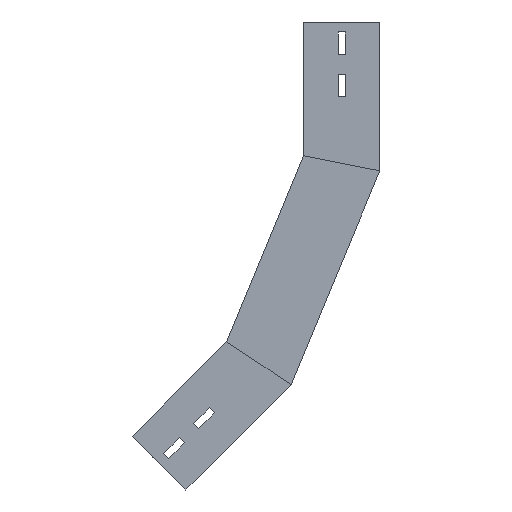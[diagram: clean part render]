
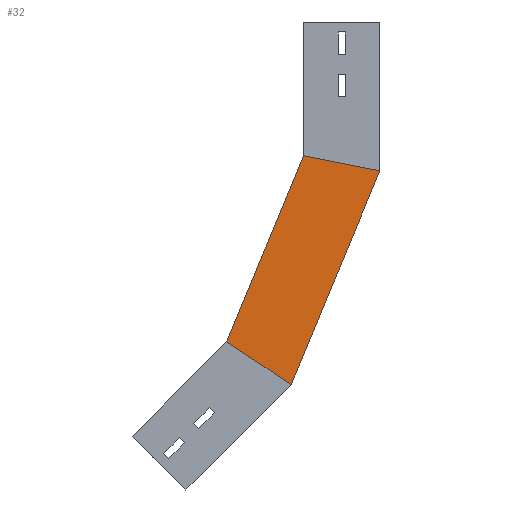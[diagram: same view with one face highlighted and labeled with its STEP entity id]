
A CAD part, left-side view. The second image highlights one B-rep face of the part: STEP entity #32.
In plain terms, the highlighted planar face has unit normal (-1, 0, 0) as drawn and (1, 0, 0) by its records, which use the part's own axes.
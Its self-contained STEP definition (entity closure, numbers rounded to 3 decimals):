
#32 = ADVANCED_FACE ( 'NONE', ( #596 ), #1064, .F. ) ;
#110 = VECTOR ( 'NONE', #1266, 1000. ) ;
#133 = CARTESIAN_POINT ( 'NONE',  ( 0., 0., -146.6 ) ) ;
#309 = VECTOR ( 'NONE', #672, 1000. ) ;
#312 = DIRECTION ( 'NONE',  ( 0., -0.831, -0.556 ) ) ;
#314 = EDGE_CURVE ( 'NONE', #905, #603, #317, .T. ) ;
#317 = LINE ( 'NONE', #1472, #383 ) ;
#329 = EDGE_CURVE ( 'NONE', #1327, #854, #1138, .T. ) ;
#380 = DIRECTION ( 'NONE',  ( -1., 0., 0. ) ) ;
#383 = VECTOR ( 'NONE', #312, 1000. ) ;
#410 = ORIENTED_EDGE ( 'NONE', *, *, #329, .T. ) ;
#568 = CARTESIAN_POINT ( 'NONE',  ( 0., 87.328, -357.429 ) ) ;
#594 = DIRECTION ( 'NONE',  ( 0., 0.383, -0.924 ) ) ;
#596 = FACE_OUTER_BOUND ( 'NONE', #894, .T. ) ;
#603 = VERTEX_POINT ( 'NONE', #568 ) ;
#672 = DIRECTION ( 'NONE',  ( 0., -0.981, -0.195 ) ) ;
#677 = CARTESIAN_POINT ( 'NONE',  ( 0., 69.291, -117.899 ) ) ;
#718 = CARTESIAN_POINT ( 'NONE',  ( 0., 0., -146.6 ) ) ;
#849 = LINE ( 'NONE', #971, #1468 ) ;
#854 = VERTEX_POINT ( 'NONE', #133 ) ;
#856 = EDGE_CURVE ( 'NONE', #1327, #905, #1317, .T. ) ;
#873 = CARTESIAN_POINT ( 'NONE',  ( 0., 75., -131.682 ) ) ;
#894 = EDGE_LOOP ( 'NONE', ( #1073, #410, #1207, #985 ) ) ;
#905 = VERTEX_POINT ( 'NONE', #1086 ) ;
#971 = CARTESIAN_POINT ( 'NONE',  ( 0., 0., -146.6 ) ) ;
#985 = ORIENTED_EDGE ( 'NONE', *, *, #314, .F. ) ;
#996 = EDGE_CURVE ( 'NONE', #854, #603, #849, .T. ) ;
#1064 = PLANE ( 'NONE',  #1479 ) ;
#1073 = ORIENTED_EDGE ( 'NONE', *, *, #856, .F. ) ;
#1086 = CARTESIAN_POINT ( 'NONE',  ( 0., 150.91, -314.945 ) ) ;
#1138 = LINE ( 'NONE', #1232, #309 ) ;
#1207 = ORIENTED_EDGE ( 'NONE', *, *, #996, .T. ) ;
#1232 = CARTESIAN_POINT ( 'NONE',  ( 0., 28.051, -141.02 ) ) ;
#1266 = DIRECTION ( 'NONE',  ( 0., 0.383, -0.924 ) ) ;
#1306 = DIRECTION ( 'NONE',  ( 0., 0., 1. ) ) ;
#1317 = LINE ( 'NONE', #677, #110 ) ;
#1327 = VERTEX_POINT ( 'NONE', #873 ) ;
#1468 = VECTOR ( 'NONE', #594, 1000. ) ;
#1472 = CARTESIAN_POINT ( 'NONE',  ( 0., 124.345, -332.696 ) ) ;
#1479 = AXIS2_PLACEMENT_3D ( 'NONE', #718, #380, #1306 ) ;
